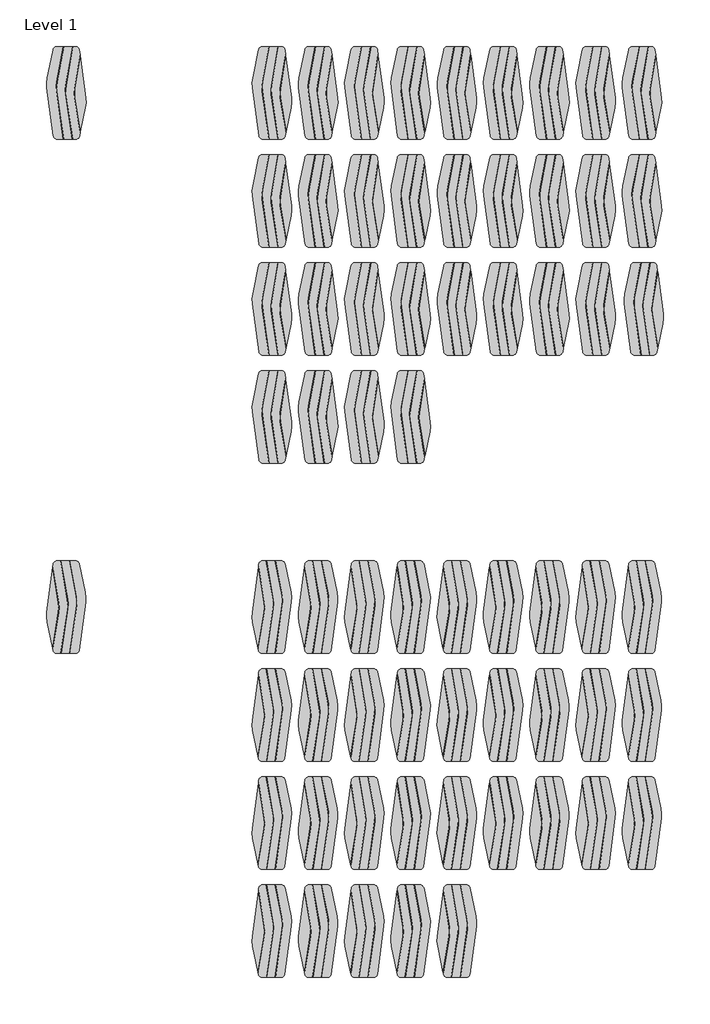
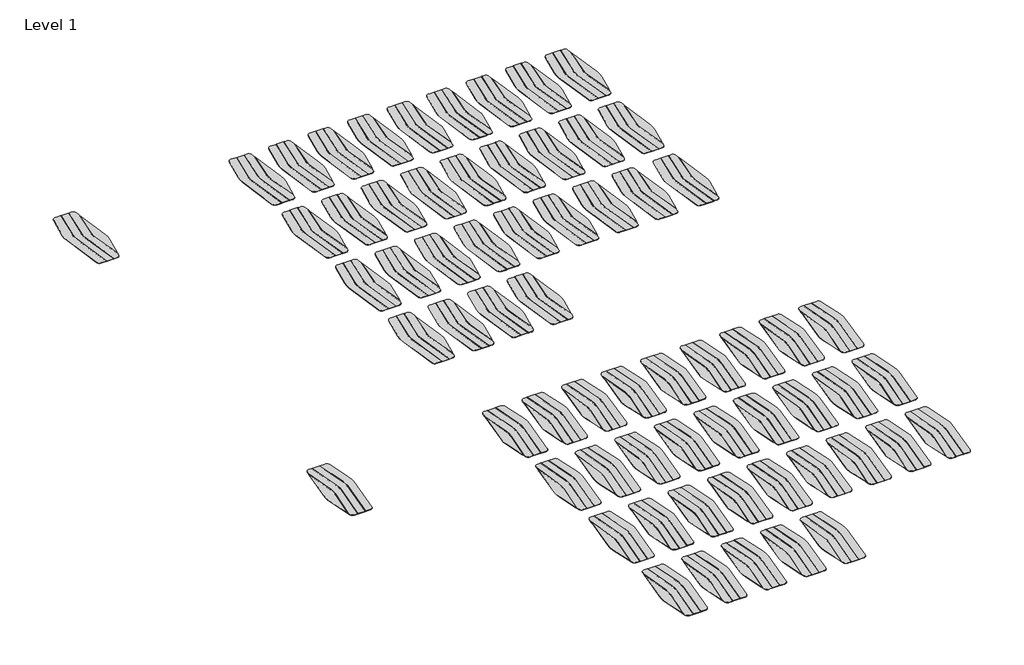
# One storey: 65 proxies.
"""IFC4 building model written with IfcOpenShell, lengths in millimetres."""

from ifc_helpers import new_model, si_unit, origin, place, context, project, spatial, transform, mapped, element, save
from components import proxy_101_frost_12_mm_b6704e68

model = new_model("IFC4")

# Units and contexts
model_context = context("Model", 3, world=origin())
ifc_project = project(units=[si_unit("LENGTHUNIT", "METRE", prefix="MILLI")], contexts=[model_context])

# Site, building, storey
site = spatial("IfcSite", under=ifc_project)
building = spatial("IfcBuilding", under=site)
storey = spatial("IfcBuildingStorey", under=building, Name="Level 1", Elevation=0.0)

# Proxies
placement = place(None, origin())
proxy_101_frost_12_mm_shape = proxy_101_frost_12_mm_b6704e68(model_context)
element("IfcBuildingElementProxy", 1, Name="Wall-Panel-Kirei_USA-EchoScreen-Hexa_Screen : 108 Sunshine - 12 mm", ObjectType="Wall-Panel-Kirei_USA-EchoScreen-Hexa_Screen : 108 Sunshine - 12 mm", at=placement, inside=storey, context=model_context, shape_type="MappedRepresentation", body=[
    mapped(proxy_101_frost_12_mm_shape, transform((1981.2, -21640.8, 0.0), x_axis=(1.0, 0.0, 0.0), y_axis=(0.0, 1.0, 0.0), z_axis=(0.0, 0.0, 1.0))),
])
element("IfcBuildingElementProxy", 2, Name="Wall-Panel-Kirei_USA-EchoScreen-Hexa_Screen : 108 Sunshine - 12 mm", ObjectType="Wall-Panel-Kirei_USA-EchoScreen-Hexa_Screen : 108 Sunshine - 12 mm", at=placement, inside=storey, context=model_context, shape_type="MappedRepresentation", body=[
    mapped(proxy_101_frost_12_mm_shape, transform((1933.3295856, -36880.8, 0.0), x_axis=(-1.0, 0.0, 0.0), y_axis=(0.0, 1.0, 0.0), z_axis=(0.0, 0.0, -1.0))),
])
element("IfcBuildingElementProxy", 3, Name="Wall-Panel-Kirei_USA-EchoScreen-Hexa_Screen : 167 Cinnamon - 12 mm", ObjectType="Wall-Panel-Kirei_USA-EchoScreen-Hexa_Screen : 167 Cinnamon - 12 mm", at=placement, inside=storey, context=model_context, shape_type="MappedRepresentation", body=[
    mapped(proxy_101_frost_12_mm_shape, transform((4724.4, -21640.8, 0.0), x_axis=(1.0, 0.0, 0.0), y_axis=(0.0, 1.0, 0.0), z_axis=(0.0, 0.0, 1.0))),
])
element("IfcBuildingElementProxy", 4, Name="Wall-Panel-Kirei_USA-EchoScreen-Hexa_Screen : 167 Cinnamon - 12 mm", ObjectType="Wall-Panel-Kirei_USA-EchoScreen-Hexa_Screen : 167 Cinnamon - 12 mm", at=placement, inside=storey, context=model_context, shape_type="MappedRepresentation", body=[
    mapped(proxy_101_frost_12_mm_shape, transform((4676.5295856, -36880.8, 0.0), x_axis=(-1.0, 0.0, 0.0), y_axis=(0.0, 1.0, 0.0), z_axis=(0.0, 0.0, -1.0))),
])
element("IfcBuildingElementProxy", 5, Name="Wall-Panel-Kirei_USA-EchoScreen-Hexa_Screen : 274 Orchid - 12 mm", ObjectType="Wall-Panel-Kirei_USA-EchoScreen-Hexa_Screen : 274 Orchid - 12 mm", at=placement, inside=storey, context=model_context, shape_type="MappedRepresentation", body=[
    mapped(proxy_101_frost_12_mm_shape, transform((8839.2, -21640.8, 0.0), x_axis=(1.0, 0.0, 0.0), y_axis=(0.0, 1.0, 0.0), z_axis=(0.0, 0.0, 1.0))),
])
element("IfcBuildingElementProxy", 6, Name="Wall-Panel-Kirei_USA-EchoScreen-Hexa_Screen : 274 Orchid - 12 mm", ObjectType="Wall-Panel-Kirei_USA-EchoScreen-Hexa_Screen : 274 Orchid - 12 mm", at=placement, inside=storey, context=model_context, shape_type="MappedRepresentation", body=[
    mapped(proxy_101_frost_12_mm_shape, transform((8791.3295856, -36880.8, 0.0), x_axis=(-1.0, 0.0, 0.0), y_axis=(0.0, 1.0, 0.0), z_axis=(0.0, 0.0, -1.0))),
])
element("IfcBuildingElementProxy", 7, Name="Wall-Panel-Kirei_USA-EchoScreen-Hexa_Screen : 295 Mandarin - 12 mm", ObjectType="Wall-Panel-Kirei_USA-EchoScreen-Hexa_Screen : 295 Mandarin - 12 mm", at=placement, inside=storey, context=model_context, shape_type="MappedRepresentation", body=[
    mapped(proxy_101_frost_12_mm_shape, transform((11582.4, -21640.8, 0.0), x_axis=(1.0, 0.0, 0.0), y_axis=(0.0, 1.0, 0.0), z_axis=(0.0, 0.0, 1.0))),
])
element("IfcBuildingElementProxy", 8, Name="Wall-Panel-Kirei_USA-EchoScreen-Hexa_Screen : 295 Mandarin - 12 mm", ObjectType="Wall-Panel-Kirei_USA-EchoScreen-Hexa_Screen : 295 Mandarin - 12 mm", at=placement, inside=storey, context=model_context, shape_type="MappedRepresentation", body=[
    mapped(proxy_101_frost_12_mm_shape, transform((11534.5295856, -36880.8, 0.0), x_axis=(-1.0, 0.0, 0.0), y_axis=(0.0, 1.0, 0.0), z_axis=(0.0, 0.0, -1.0))),
])
element("IfcBuildingElementProxy", 9, Name="Wall-Panel-Kirei_USA-EchoScreen-Hexa_Screen : 330 Ivy - 12 mm", ObjectType="Wall-Panel-Kirei_USA-EchoScreen-Hexa_Screen : 330 Ivy - 12 mm", at=placement, inside=storey, context=model_context, shape_type="MappedRepresentation", body=[
    mapped(proxy_101_frost_12_mm_shape, transform((609.6, -24841.2, 0.0), x_axis=(1.0, 0.0, 0.0), y_axis=(0.0, 1.0, 0.0), z_axis=(0.0, 0.0, 1.0))),
])
element("IfcBuildingElementProxy", 10, Name="Wall-Panel-Kirei_USA-EchoScreen-Hexa_Screen : 330 Ivy - 12 mm", ObjectType="Wall-Panel-Kirei_USA-EchoScreen-Hexa_Screen : 330 Ivy - 12 mm", at=placement, inside=storey, context=model_context, shape_type="MappedRepresentation", body=[
    mapped(proxy_101_frost_12_mm_shape, transform((561.7295856, -40081.2, 0.0), x_axis=(-1.0, 0.0, 0.0), y_axis=(0.0, 1.0, 0.0), z_axis=(0.0, 0.0, -1.0))),
])
element("IfcBuildingElementProxy", 11, Name="Wall-Panel-Kirei_USA-EchoScreen-Hexa_Screen : 338 Jade - 12 mm", ObjectType="Wall-Panel-Kirei_USA-EchoScreen-Hexa_Screen : 338 Jade - 12 mm", at=placement, inside=storey, context=model_context, shape_type="MappedRepresentation", body=[
    mapped(proxy_101_frost_12_mm_shape, transform((1981.2, -24841.2, 0.0), x_axis=(1.0, 0.0, 0.0), y_axis=(0.0, 1.0, 0.0), z_axis=(0.0, 0.0, 1.0))),
])
element("IfcBuildingElementProxy", 12, Name="Wall-Panel-Kirei_USA-EchoScreen-Hexa_Screen : 338 Jade - 12 mm", ObjectType="Wall-Panel-Kirei_USA-EchoScreen-Hexa_Screen : 338 Jade - 12 mm", at=placement, inside=storey, context=model_context, shape_type="MappedRepresentation", body=[
    mapped(proxy_101_frost_12_mm_shape, transform((1933.3295856, -40081.2, 0.0), x_axis=(-1.0, 0.0, 0.0), y_axis=(0.0, 1.0, 0.0), z_axis=(0.0, 0.0, -1.0))),
])
element("IfcBuildingElementProxy", 13, Name="Wall-Panel-Kirei_USA-EchoScreen-Hexa_Screen : 349 Vineyard - 12 mm", ObjectType="Wall-Panel-Kirei_USA-EchoScreen-Hexa_Screen : 349 Vineyard - 12 mm", at=placement, inside=storey, context=model_context, shape_type="MappedRepresentation", body=[
    mapped(proxy_101_frost_12_mm_shape, transform((3352.8, -24841.2, 0.0), x_axis=(1.0, 0.0, 0.0), y_axis=(0.0, 1.0, 0.0), z_axis=(0.0, 0.0, 1.0))),
])
element("IfcBuildingElementProxy", 14, Name="Wall-Panel-Kirei_USA-EchoScreen-Hexa_Screen : 349 Vineyard - 12 mm", ObjectType="Wall-Panel-Kirei_USA-EchoScreen-Hexa_Screen : 349 Vineyard - 12 mm", at=placement, inside=storey, context=model_context, shape_type="MappedRepresentation", body=[
    mapped(proxy_101_frost_12_mm_shape, transform((3304.9295856, -40081.2, 0.0), x_axis=(-1.0, 0.0, 0.0), y_axis=(0.0, 1.0, 0.0), z_axis=(0.0, 0.0, -1.0))),
])
element("IfcBuildingElementProxy", 15, Name="Wall-Panel-Kirei_USA-EchoScreen-Hexa_Screen : 551 Duck Egg - 12 mm", ObjectType="Wall-Panel-Kirei_USA-EchoScreen-Hexa_Screen : 551 Duck Egg - 12 mm", at=placement, inside=storey, context=model_context, shape_type="MappedRepresentation", body=[
    mapped(proxy_101_frost_12_mm_shape, transform((10210.8, -28041.6, 0.0), x_axis=(1.0, 0.0, 0.0), y_axis=(0.0, 1.0, 0.0), z_axis=(0.0, 0.0, 1.0))),
])
element("IfcBuildingElementProxy", 16, Name="Wall-Panel-Kirei_USA-EchoScreen-Hexa_Screen : 551 Duck Egg - 12 mm", ObjectType="Wall-Panel-Kirei_USA-EchoScreen-Hexa_Screen : 551 Duck Egg - 12 mm", at=placement, inside=storey, context=model_context, shape_type="MappedRepresentation", body=[
    mapped(proxy_101_frost_12_mm_shape, transform((10162.9295856, -43281.6, 0.0), x_axis=(-1.0, 0.0, 0.0), y_axis=(0.0, 1.0, 0.0), z_axis=(0.0, 0.0, -1.0))),
])
element("IfcBuildingElementProxy", 17, Name="Wall-Panel-Kirei_USA-EchoScreen-Hexa_Screen : 579 Pistachio - 12 mm", ObjectType="Wall-Panel-Kirei_USA-EchoScreen-Hexa_Screen : 579 Pistachio - 12 mm", at=placement, inside=storey, context=model_context, shape_type="MappedRepresentation", body=[
    mapped(proxy_101_frost_12_mm_shape, transform((561.7295856, -46482.0, 0.0), x_axis=(-1.0, 0.0, 0.0), y_axis=(0.0, 1.0, 0.0), z_axis=(0.0, 0.0, -1.0))),
])
element("IfcBuildingElementProxy", 18, Name="Wall-Panel-Kirei_USA-EchoScreen-Hexa_Screen : 579 Pistachio - 12 mm", ObjectType="Wall-Panel-Kirei_USA-EchoScreen-Hexa_Screen : 579 Pistachio - 12 mm", at=placement, inside=storey, context=model_context, shape_type="MappedRepresentation", body=[
    mapped(proxy_101_frost_12_mm_shape, transform((11636.7403987, -28041.6, 0.0), x_axis=(1.0, 0.0, 0.0), y_axis=(0.0, 1.0, 0.0), z_axis=(0.0, 0.0, 1.0))),
])
element("IfcBuildingElementProxy", 19, Name="Wall-Panel-Kirei_USA-EchoScreen-Hexa_Screen : 633 Pacific - 12 mm", ObjectType="Wall-Panel-Kirei_USA-EchoScreen-Hexa_Screen : 633 Pacific - 12 mm", at=placement, inside=storey, context=model_context, shape_type="MappedRepresentation", body=[
    mapped(proxy_101_frost_12_mm_shape, transform((3304.9295856, -46482.0, 0.0), x_axis=(-1.0, 0.0, 0.0), y_axis=(0.0, 1.0, 0.0), z_axis=(0.0, 0.0, -1.0))),
])
element("IfcBuildingElementProxy", 20, Name="Wall-Panel-Kirei_USA-EchoScreen-Hexa_Screen : 633 Pacific - 12 mm", ObjectType="Wall-Panel-Kirei_USA-EchoScreen-Hexa_Screen : 633 Pacific - 12 mm", at=placement, inside=storey, context=model_context, shape_type="MappedRepresentation", body=[
    mapped(proxy_101_frost_12_mm_shape, transform((1981.2, -31242.0, 0.0), x_axis=(1.0, 0.0, 0.0), y_axis=(0.0, 1.0, 0.0), z_axis=(0.0, 0.0, 1.0))),
])
element("IfcBuildingElementProxy", 21, Name="Wall-Panel-Kirei_USA-EchoScreen-Hexa_Screen : 660 Coronet - 12 mm", ObjectType="Wall-Panel-Kirei_USA-EchoScreen-Hexa_Screen : 660 Coronet - 12 mm", at=placement, inside=storey, context=model_context, shape_type="MappedRepresentation", body=[
    mapped(proxy_101_frost_12_mm_shape, transform((4676.5295856, -46482.0, 0.0), x_axis=(-1.0, 0.0, 0.0), y_axis=(0.0, 1.0, 0.0), z_axis=(0.0, 0.0, -1.0))),
])
element("IfcBuildingElementProxy", 22, Name="Wall-Panel-Kirei_USA-EchoScreen-Hexa_Screen : 660 Coronet - 12 mm", ObjectType="Wall-Panel-Kirei_USA-EchoScreen-Hexa_Screen : 660 Coronet - 12 mm", at=placement, inside=storey, context=model_context, shape_type="MappedRepresentation", body=[
    mapped(proxy_101_frost_12_mm_shape, transform((3352.8, -31242.0, 0.0), x_axis=(1.0, 0.0, 0.0), y_axis=(0.0, 1.0, 0.0), z_axis=(0.0, 0.0, 1.0))),
])
element("IfcBuildingElementProxy", 23, Name="Wall-Panel-Kirei_USA-EchoScreen-Hexa_Screen : 101 Frost - 12 mm", ObjectType="Wall-Panel-Kirei_USA-EchoScreen-Hexa_Screen : 101 Frost - 12 mm", at=placement, inside=storey, context=model_context, shape_type="MappedRepresentation", body=[
    mapped(proxy_101_frost_12_mm_shape, transform((609.6, -21640.8, 0.0), x_axis=(1.0, 0.0, 0.0), y_axis=(0.0, 1.0, 0.0), z_axis=(0.0, 0.0, 1.0))),
])
element("IfcBuildingElementProxy", 24, Name="Wall-Panel-Kirei_USA-EchoScreen-Hexa_Screen : 101 Frost - 12 mm", ObjectType="Wall-Panel-Kirei_USA-EchoScreen-Hexa_Screen : 101 Frost - 12 mm", at=placement, inside=storey, context=model_context, shape_type="MappedRepresentation", body=[
    mapped(proxy_101_frost_12_mm_shape, transform((-5486.4, -21640.8, 0.0), x_axis=(1.0, 0.0, 0.0), y_axis=(0.0, 1.0, 0.0), z_axis=(0.0, 0.0, 1.0))),
])
element("IfcBuildingElementProxy", 25, Name="Wall-Panel-Kirei_USA-EchoScreen-Hexa_Screen : 101 Frost - 12 mm", ObjectType="Wall-Panel-Kirei_USA-EchoScreen-Hexa_Screen : 101 Frost - 12 mm", at=placement, inside=storey, context=model_context, shape_type="MappedRepresentation", body=[
    mapped(proxy_101_frost_12_mm_shape, transform((-5534.2704144, -36880.8, 0.0), x_axis=(-1.0, 0.0, 0.0), y_axis=(0.0, 1.0, 0.0), z_axis=(0.0, 0.0, -1.0))),
])
element("IfcBuildingElementProxy", 26, Name="Wall-Panel-Kirei_USA-EchoScreen-Hexa_Screen : 101 Frost - 12 mm", ObjectType="Wall-Panel-Kirei_USA-EchoScreen-Hexa_Screen : 101 Frost - 12 mm", at=placement, inside=storey, context=model_context, shape_type="MappedRepresentation", body=[
    mapped(proxy_101_frost_12_mm_shape, transform((561.7295856, -36880.8, 0.0), x_axis=(-1.0, 0.0, 0.0), y_axis=(0.0, 1.0, 0.0), z_axis=(0.0, 0.0, -1.0))),
])
element("IfcBuildingElementProxy", 27, Name="Wall-Panel-Kirei_USA-EchoScreen-Hexa_Screen : 124 Ochre - 12 mm", ObjectType="Wall-Panel-Kirei_USA-EchoScreen-Hexa_Screen : 124 Ochre - 12 mm", at=placement, inside=storey, context=model_context, shape_type="MappedRepresentation", body=[
    mapped(proxy_101_frost_12_mm_shape, transform((3352.8, -21640.8, 0.0), x_axis=(1.0, 0.0, 0.0), y_axis=(0.0, 1.0, 0.0), z_axis=(0.0, 0.0, 1.0))),
])
element("IfcBuildingElementProxy", 28, Name="Wall-Panel-Kirei_USA-EchoScreen-Hexa_Screen : 124 Ochre - 12 mm", ObjectType="Wall-Panel-Kirei_USA-EchoScreen-Hexa_Screen : 124 Ochre - 12 mm", at=placement, inside=storey, context=model_context, shape_type="MappedRepresentation", body=[
    mapped(proxy_101_frost_12_mm_shape, transform((3304.9295856, -36880.8, 0.0), x_axis=(-1.0, 0.0, 0.0), y_axis=(0.0, 1.0, 0.0), z_axis=(0.0, 0.0, -1.0))),
])
element("IfcBuildingElementProxy", 29, Name="Wall-Panel-Kirei_USA-EchoScreen-Hexa_Screen : 193 Rouge - 12 mm", ObjectType="Wall-Panel-Kirei_USA-EchoScreen-Hexa_Screen : 193 Rouge - 12 mm", at=placement, inside=storey, context=model_context, shape_type="MappedRepresentation", body=[
    mapped(proxy_101_frost_12_mm_shape, transform((6096.0, -21640.8, 0.0), x_axis=(1.0, 0.0, 0.0), y_axis=(0.0, 1.0, 0.0), z_axis=(0.0, 0.0, 1.0))),
])
element("IfcBuildingElementProxy", 30, Name="Wall-Panel-Kirei_USA-EchoScreen-Hexa_Screen : 193 Rouge - 12 mm", ObjectType="Wall-Panel-Kirei_USA-EchoScreen-Hexa_Screen : 193 Rouge - 12 mm", at=placement, inside=storey, context=model_context, shape_type="MappedRepresentation", body=[
    mapped(proxy_101_frost_12_mm_shape, transform((6048.1295856, -36880.8, 0.0), x_axis=(-1.0, 0.0, 0.0), y_axis=(0.0, 1.0, 0.0), z_axis=(0.0, 0.0, -1.0))),
])
element("IfcBuildingElementProxy", 31, Name="Wall-Panel-Kirei_USA-EchoScreen-Hexa_Screen : 269 Wine - 12 mm", ObjectType="Wall-Panel-Kirei_USA-EchoScreen-Hexa_Screen : 269 Wine - 12 mm", at=placement, inside=storey, context=model_context, shape_type="MappedRepresentation", body=[
    mapped(proxy_101_frost_12_mm_shape, transform((7467.6, -21640.8, 0.0), x_axis=(1.0, 0.0, 0.0), y_axis=(0.0, 1.0, 0.0), z_axis=(0.0, 0.0, 1.0))),
])
element("IfcBuildingElementProxy", 32, Name="Wall-Panel-Kirei_USA-EchoScreen-Hexa_Screen : 269 Wine - 12 mm", ObjectType="Wall-Panel-Kirei_USA-EchoScreen-Hexa_Screen : 269 Wine - 12 mm", at=placement, inside=storey, context=model_context, shape_type="MappedRepresentation", body=[
    mapped(proxy_101_frost_12_mm_shape, transform((7419.7295856, -36880.8, 0.0), x_axis=(-1.0, 0.0, 0.0), y_axis=(0.0, 1.0, 0.0), z_axis=(0.0, 0.0, -1.0))),
])
element("IfcBuildingElementProxy", 33, Name="Wall-Panel-Kirei_USA-EchoScreen-Hexa_Screen : 276 Lavender - 12 mm", ObjectType="Wall-Panel-Kirei_USA-EchoScreen-Hexa_Screen : 276 Lavender - 12 mm", at=placement, inside=storey, context=model_context, shape_type="MappedRepresentation", body=[
    mapped(proxy_101_frost_12_mm_shape, transform((10210.8, -21640.8, 0.0), x_axis=(1.0, 0.0, 0.0), y_axis=(0.0, 1.0, 0.0), z_axis=(0.0, 0.0, 1.0))),
])
element("IfcBuildingElementProxy", 34, Name="Wall-Panel-Kirei_USA-EchoScreen-Hexa_Screen : 276 Lavender - 12 mm", ObjectType="Wall-Panel-Kirei_USA-EchoScreen-Hexa_Screen : 276 Lavender - 12 mm", at=placement, inside=storey, context=model_context, shape_type="MappedRepresentation", body=[
    mapped(proxy_101_frost_12_mm_shape, transform((10162.9295856, -36880.8, 0.0), x_axis=(-1.0, 0.0, 0.0), y_axis=(0.0, 1.0, 0.0), z_axis=(0.0, 0.0, -1.0))),
])
element("IfcBuildingElementProxy", 35, Name="Wall-Panel-Kirei_USA-EchoScreen-Hexa_Screen : 365 Navy - 12 mm", ObjectType="Wall-Panel-Kirei_USA-EchoScreen-Hexa_Screen : 365 Navy - 12 mm", at=placement, inside=storey, context=model_context, shape_type="MappedRepresentation", body=[
    mapped(proxy_101_frost_12_mm_shape, transform((4724.4, -24841.2, 0.0), x_axis=(1.0, 0.0, 0.0), y_axis=(0.0, 1.0, 0.0), z_axis=(0.0, 0.0, 1.0))),
])
element("IfcBuildingElementProxy", 36, Name="Wall-Panel-Kirei_USA-EchoScreen-Hexa_Screen : 365 Navy - 12 mm", ObjectType="Wall-Panel-Kirei_USA-EchoScreen-Hexa_Screen : 365 Navy - 12 mm", at=placement, inside=storey, context=model_context, shape_type="MappedRepresentation", body=[
    mapped(proxy_101_frost_12_mm_shape, transform((4676.5295856, -40081.2, 0.0), x_axis=(-1.0, 0.0, 0.0), y_axis=(0.0, 1.0, 0.0), z_axis=(0.0, 0.0, -1.0))),
])
element("IfcBuildingElementProxy", 37, Name="Wall-Panel-Kirei_USA-EchoScreen-Hexa_Screen : 381 Lime Splice - 12 mm", ObjectType="Wall-Panel-Kirei_USA-EchoScreen-Hexa_Screen : 381 Lime Splice - 12 mm", at=placement, inside=storey, context=model_context, shape_type="MappedRepresentation", body=[
    mapped(proxy_101_frost_12_mm_shape, transform((6096.0, -24841.2, 0.0), x_axis=(1.0, 0.0, 0.0), y_axis=(0.0, 1.0, 0.0), z_axis=(0.0, 0.0, 1.0))),
])
element("IfcBuildingElementProxy", 38, Name="Wall-Panel-Kirei_USA-EchoScreen-Hexa_Screen : 381 Lime Splice - 12 mm", ObjectType="Wall-Panel-Kirei_USA-EchoScreen-Hexa_Screen : 381 Lime Splice - 12 mm", at=placement, inside=storey, context=model_context, shape_type="MappedRepresentation", body=[
    mapped(proxy_101_frost_12_mm_shape, transform((6048.1295856, -40081.2, 0.0), x_axis=(-1.0, 0.0, 0.0), y_axis=(0.0, 1.0, 0.0), z_axis=(0.0, 0.0, -1.0))),
])
element("IfcBuildingElementProxy", 39, Name="Wall-Panel-Kirei_USA-EchoScreen-Hexa_Screen : 384 Olive - 12 mm", ObjectType="Wall-Panel-Kirei_USA-EchoScreen-Hexa_Screen : 384 Olive - 12 mm", at=placement, inside=storey, context=model_context, shape_type="MappedRepresentation", body=[
    mapped(proxy_101_frost_12_mm_shape, transform((7467.6, -24841.2, 0.0), x_axis=(1.0, 0.0, 0.0), y_axis=(0.0, 1.0, 0.0), z_axis=(0.0, 0.0, 1.0))),
])
element("IfcBuildingElementProxy", 40, Name="Wall-Panel-Kirei_USA-EchoScreen-Hexa_Screen : 384 Olive - 12 mm", ObjectType="Wall-Panel-Kirei_USA-EchoScreen-Hexa_Screen : 384 Olive - 12 mm", at=placement, inside=storey, context=model_context, shape_type="MappedRepresentation", body=[
    mapped(proxy_101_frost_12_mm_shape, transform((7419.7295856, -40081.2, 0.0), x_axis=(-1.0, 0.0, 0.0), y_axis=(0.0, 1.0, 0.0), z_axis=(0.0, 0.0, -1.0))),
])
element("IfcBuildingElementProxy", 41, Name="Wall-Panel-Kirei_USA-EchoScreen-Hexa_Screen : 402 Pebble - 12 mm", ObjectType="Wall-Panel-Kirei_USA-EchoScreen-Hexa_Screen : 402 Pebble - 12 mm", at=placement, inside=storey, context=model_context, shape_type="MappedRepresentation", body=[
    mapped(proxy_101_frost_12_mm_shape, transform((8839.2, -24841.2, 0.0), x_axis=(1.0, 0.0, 0.0), y_axis=(0.0, 1.0, 0.0), z_axis=(0.0, 0.0, 1.0))),
])
element("IfcBuildingElementProxy", 42, Name="Wall-Panel-Kirei_USA-EchoScreen-Hexa_Screen : 402 Pebble - 12 mm", ObjectType="Wall-Panel-Kirei_USA-EchoScreen-Hexa_Screen : 402 Pebble - 12 mm", at=placement, inside=storey, context=model_context, shape_type="MappedRepresentation", body=[
    mapped(proxy_101_frost_12_mm_shape, transform((8791.3295856, -40081.2, 0.0), x_axis=(-1.0, 0.0, 0.0), y_axis=(0.0, 1.0, 0.0), z_axis=(0.0, 0.0, -1.0))),
])
element("IfcBuildingElementProxy", 43, Name="Wall-Panel-Kirei_USA-EchoScreen-Hexa_Screen : 442 Gray - 12 mm", ObjectType="Wall-Panel-Kirei_USA-EchoScreen-Hexa_Screen : 442 Gray - 12 mm", at=placement, inside=storey, context=model_context, shape_type="MappedRepresentation", body=[
    mapped(proxy_101_frost_12_mm_shape, transform((10210.8, -24841.2, 0.0), x_axis=(1.0, 0.0, 0.0), y_axis=(0.0, 1.0, 0.0), z_axis=(0.0, 0.0, 1.0))),
])
element("IfcBuildingElementProxy", 44, Name="Wall-Panel-Kirei_USA-EchoScreen-Hexa_Screen : 442 Gray - 12 mm", ObjectType="Wall-Panel-Kirei_USA-EchoScreen-Hexa_Screen : 442 Gray - 12 mm", at=placement, inside=storey, context=model_context, shape_type="MappedRepresentation", body=[
    mapped(proxy_101_frost_12_mm_shape, transform((10162.9295856, -40081.2, 0.0), x_axis=(-1.0, 0.0, 0.0), y_axis=(0.0, 1.0, 0.0), z_axis=(0.0, 0.0, -1.0))),
])
element("IfcBuildingElementProxy", 45, Name="Wall-Panel-Kirei_USA-EchoScreen-Hexa_Screen : 444 Smoke - 12 mm", ObjectType="Wall-Panel-Kirei_USA-EchoScreen-Hexa_Screen : 444 Smoke - 12 mm", at=placement, inside=storey, context=model_context, shape_type="MappedRepresentation", body=[
    mapped(proxy_101_frost_12_mm_shape, transform((11582.4, -24841.2, 0.0), x_axis=(1.0, 0.0, 0.0), y_axis=(0.0, 1.0, 0.0), z_axis=(0.0, 0.0, 1.0))),
])
element("IfcBuildingElementProxy", 46, Name="Wall-Panel-Kirei_USA-EchoScreen-Hexa_Screen : 444 Smoke - 12 mm", ObjectType="Wall-Panel-Kirei_USA-EchoScreen-Hexa_Screen : 444 Smoke - 12 mm", at=placement, inside=storey, context=model_context, shape_type="MappedRepresentation", body=[
    mapped(proxy_101_frost_12_mm_shape, transform((11534.5295856, -40081.2, 0.0), x_axis=(-1.0, 0.0, 0.0), y_axis=(0.0, 1.0, 0.0), z_axis=(0.0, 0.0, -1.0))),
])
element("IfcBuildingElementProxy", 47, Name="Wall-Panel-Kirei_USA-EchoScreen-Hexa_Screen : 447 Slate - 12 mm", ObjectType="Wall-Panel-Kirei_USA-EchoScreen-Hexa_Screen : 447 Slate - 12 mm", at=placement, inside=storey, context=model_context, shape_type="MappedRepresentation", body=[
    mapped(proxy_101_frost_12_mm_shape, transform((609.6, -28041.6, 0.0), x_axis=(1.0, 0.0, 0.0), y_axis=(0.0, 1.0, 0.0), z_axis=(0.0, 0.0, 1.0))),
])
element("IfcBuildingElementProxy", 48, Name="Wall-Panel-Kirei_USA-EchoScreen-Hexa_Screen : 447 Slate - 12 mm", ObjectType="Wall-Panel-Kirei_USA-EchoScreen-Hexa_Screen : 447 Slate - 12 mm", at=placement, inside=storey, context=model_context, shape_type="MappedRepresentation", body=[
    mapped(proxy_101_frost_12_mm_shape, transform((561.7295856, -43281.6, 0.0), x_axis=(-1.0, 0.0, 0.0), y_axis=(0.0, 1.0, 0.0), z_axis=(0.0, 0.0, -1.0))),
])
element("IfcBuildingElementProxy", 49, Name="Wall-Panel-Kirei_USA-EchoScreen-Hexa_Screen : 454 Mushroom - 12 mm", ObjectType="Wall-Panel-Kirei_USA-EchoScreen-Hexa_Screen : 454 Mushroom - 12 mm", at=placement, inside=storey, context=model_context, shape_type="MappedRepresentation", body=[
    mapped(proxy_101_frost_12_mm_shape, transform((1981.2, -28041.6, 0.0), x_axis=(1.0, 0.0, 0.0), y_axis=(0.0, 1.0, 0.0), z_axis=(0.0, 0.0, 1.0))),
])
element("IfcBuildingElementProxy", 50, Name="Wall-Panel-Kirei_USA-EchoScreen-Hexa_Screen : 454 Mushroom - 12 mm", ObjectType="Wall-Panel-Kirei_USA-EchoScreen-Hexa_Screen : 454 Mushroom - 12 mm", at=placement, inside=storey, context=model_context, shape_type="MappedRepresentation", body=[
    mapped(proxy_101_frost_12_mm_shape, transform((1933.3295856, -43281.6, 0.0), x_axis=(-1.0, 0.0, 0.0), y_axis=(0.0, 1.0, 0.0), z_axis=(0.0, 0.0, -1.0))),
])
element("IfcBuildingElementProxy", 51, Name="Wall-Panel-Kirei_USA-EchoScreen-Hexa_Screen : 468 Vanilla - 12 mm", ObjectType="Wall-Panel-Kirei_USA-EchoScreen-Hexa_Screen : 468 Vanilla - 12 mm", at=placement, inside=storey, context=model_context, shape_type="MappedRepresentation", body=[
    mapped(proxy_101_frost_12_mm_shape, transform((3352.8, -28041.6, 0.0), x_axis=(1.0, 0.0, 0.0), y_axis=(0.0, 1.0, 0.0), z_axis=(0.0, 0.0, 1.0))),
])
element("IfcBuildingElementProxy", 52, Name="Wall-Panel-Kirei_USA-EchoScreen-Hexa_Screen : 468 Vanilla - 12 mm", ObjectType="Wall-Panel-Kirei_USA-EchoScreen-Hexa_Screen : 468 Vanilla - 12 mm", at=placement, inside=storey, context=model_context, shape_type="MappedRepresentation", body=[
    mapped(proxy_101_frost_12_mm_shape, transform((3304.9295856, -43281.6, 0.0), x_axis=(-1.0, 0.0, 0.0), y_axis=(0.0, 1.0, 0.0), z_axis=(0.0, 0.0, -1.0))),
])
element("IfcBuildingElementProxy", 53, Name="Wall-Panel-Kirei_USA-EchoScreen-Hexa_Screen : 487 Blush - 12 mm", ObjectType="Wall-Panel-Kirei_USA-EchoScreen-Hexa_Screen : 487 Blush - 12 mm", at=placement, inside=storey, context=model_context, shape_type="MappedRepresentation", body=[
    mapped(proxy_101_frost_12_mm_shape, transform((4724.4, -28041.6, 0.0), x_axis=(1.0, 0.0, 0.0), y_axis=(0.0, 1.0, 0.0), z_axis=(0.0, 0.0, 1.0))),
])
element("IfcBuildingElementProxy", 54, Name="Wall-Panel-Kirei_USA-EchoScreen-Hexa_Screen : 487 Blush - 12 mm", ObjectType="Wall-Panel-Kirei_USA-EchoScreen-Hexa_Screen : 487 Blush - 12 mm", at=placement, inside=storey, context=model_context, shape_type="MappedRepresentation", body=[
    mapped(proxy_101_frost_12_mm_shape, transform((4676.5295856, -43281.6, 0.0), x_axis=(-1.0, 0.0, 0.0), y_axis=(0.0, 1.0, 0.0), z_axis=(0.0, 0.0, -1.0))),
])
element("IfcBuildingElementProxy", 55, Name="Wall-Panel-Kirei_USA-EchoScreen-Hexa_Screen : 500 White - 12 mm", ObjectType="Wall-Panel-Kirei_USA-EchoScreen-Hexa_Screen : 500 White - 12 mm", at=placement, inside=storey, context=model_context, shape_type="MappedRepresentation", body=[
    mapped(proxy_101_frost_12_mm_shape, transform((6096.0, -28041.6, 0.0), x_axis=(1.0, 0.0, 0.0), y_axis=(0.0, 1.0, 0.0), z_axis=(0.0, 0.0, 1.0))),
])
element("IfcBuildingElementProxy", 56, Name="Wall-Panel-Kirei_USA-EchoScreen-Hexa_Screen : 500 White - 12 mm", ObjectType="Wall-Panel-Kirei_USA-EchoScreen-Hexa_Screen : 500 White - 12 mm", at=placement, inside=storey, context=model_context, shape_type="MappedRepresentation", body=[
    mapped(proxy_101_frost_12_mm_shape, transform((6048.1295856, -43281.6, 0.0), x_axis=(-1.0, 0.0, 0.0), y_axis=(0.0, 1.0, 0.0), z_axis=(0.0, 0.0, -1.0))),
])
element("IfcBuildingElementProxy", 57, Name="Wall-Panel-Kirei_USA-EchoScreen-Hexa_Screen : 542 Black - 12 mm", ObjectType="Wall-Panel-Kirei_USA-EchoScreen-Hexa_Screen : 542 Black - 12 mm", at=placement, inside=storey, context=model_context, shape_type="MappedRepresentation", body=[
    mapped(proxy_101_frost_12_mm_shape, transform((7467.6, -28041.6, 0.0), x_axis=(1.0, 0.0, 0.0), y_axis=(0.0, 1.0, 0.0), z_axis=(0.0, 0.0, 1.0))),
])
element("IfcBuildingElementProxy", 58, Name="Wall-Panel-Kirei_USA-EchoScreen-Hexa_Screen : 542 Black - 12 mm", ObjectType="Wall-Panel-Kirei_USA-EchoScreen-Hexa_Screen : 542 Black - 12 mm", at=placement, inside=storey, context=model_context, shape_type="MappedRepresentation", body=[
    mapped(proxy_101_frost_12_mm_shape, transform((7419.7295856, -43281.6, 0.0), x_axis=(-1.0, 0.0, 0.0), y_axis=(0.0, 1.0, 0.0), z_axis=(0.0, 0.0, -1.0))),
])
element("IfcBuildingElementProxy", 59, Name="Wall-Panel-Kirei_USA-EchoScreen-Hexa_Screen : 550 Onyx - 12 mm", ObjectType="Wall-Panel-Kirei_USA-EchoScreen-Hexa_Screen : 550 Onyx - 12 mm", at=placement, inside=storey, context=model_context, shape_type="MappedRepresentation", body=[
    mapped(proxy_101_frost_12_mm_shape, transform((8839.2, -28041.6, 0.0), x_axis=(1.0, 0.0, 0.0), y_axis=(0.0, 1.0, 0.0), z_axis=(0.0, 0.0, 1.0))),
])
element("IfcBuildingElementProxy", 60, Name="Wall-Panel-Kirei_USA-EchoScreen-Hexa_Screen : 550 Onyx - 12 mm", ObjectType="Wall-Panel-Kirei_USA-EchoScreen-Hexa_Screen : 550 Onyx - 12 mm", at=placement, inside=storey, context=model_context, shape_type="MappedRepresentation", body=[
    mapped(proxy_101_frost_12_mm_shape, transform((8791.3295856, -43281.6, 0.0), x_axis=(-1.0, 0.0, 0.0), y_axis=(0.0, 1.0, 0.0), z_axis=(0.0, 0.0, -1.0))),
])
element("IfcBuildingElementProxy", 61, Name="Wall-Panel-Kirei_USA-EchoScreen-Hexa_Screen : 576 Magenta - 12 mm", ObjectType="Wall-Panel-Kirei_USA-EchoScreen-Hexa_Screen : 576 Magenta - 12 mm", at=placement, inside=storey, context=model_context, shape_type="MappedRepresentation", body=[
    mapped(proxy_101_frost_12_mm_shape, transform((11534.5295856, -43281.6, 0.0), x_axis=(-1.0, 0.0, 0.0), y_axis=(0.0, 1.0, 0.0), z_axis=(0.0, 0.0, -1.0))),
])
element("IfcBuildingElementProxy", 62, Name="Wall-Panel-Kirei_USA-EchoScreen-Hexa_Screen : 580 Sage - 12 mm", ObjectType="Wall-Panel-Kirei_USA-EchoScreen-Hexa_Screen : 580 Sage - 12 mm", at=placement, inside=storey, context=model_context, shape_type="MappedRepresentation", body=[
    mapped(proxy_101_frost_12_mm_shape, transform((1933.3295856, -46482.0, 0.0), x_axis=(-1.0, 0.0, 0.0), y_axis=(0.0, 1.0, 0.0), z_axis=(0.0, 0.0, -1.0))),
])
element("IfcBuildingElementProxy", 63, Name="Wall-Panel-Kirei_USA-EchoScreen-Hexa_Screen : 580 Sage - 12 mm", ObjectType="Wall-Panel-Kirei_USA-EchoScreen-Hexa_Screen : 580 Sage - 12 mm", at=placement, inside=storey, context=model_context, shape_type="MappedRepresentation", body=[
    mapped(proxy_101_frost_12_mm_shape, transform((609.6, -31242.0, 0.0), x_axis=(1.0, 0.0, 0.0), y_axis=(0.0, 1.0, 0.0), z_axis=(0.0, 0.0, 1.0))),
])
element("IfcBuildingElementProxy", 64, Name="Wall-Panel-Kirei_USA-EchoScreen-Hexa_Screen : 908 Cream - 12 mm", ObjectType="Wall-Panel-Kirei_USA-EchoScreen-Hexa_Screen : 908 Cream - 12 mm", at=placement, inside=storey, context=model_context, shape_type="MappedRepresentation", body=[
    mapped(proxy_101_frost_12_mm_shape, transform((6048.1295856, -46482.0, 0.0), x_axis=(-1.0, 0.0, 0.0), y_axis=(0.0, 1.0, 0.0), z_axis=(0.0, 0.0, -1.0))),
])
element("IfcBuildingElementProxy", 65, Name="Wall-Panel-Kirei_USA-EchoScreen-Hexa_Screen : 908 Cream - 12 mm", ObjectType="Wall-Panel-Kirei_USA-EchoScreen-Hexa_Screen : 908 Cream - 12 mm", at=placement, inside=storey, context=model_context, shape_type="MappedRepresentation", body=[
    mapped(proxy_101_frost_12_mm_shape, transform((4724.4, -31242.0, 0.0), x_axis=(1.0, 0.0, 0.0), y_axis=(0.0, 1.0, 0.0), z_axis=(0.0, 0.0, 1.0))),
])

save(model, "model.ifc")
